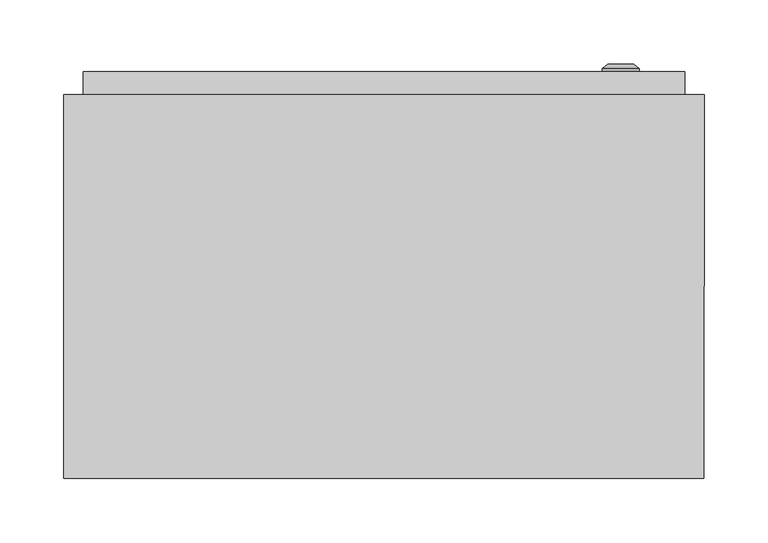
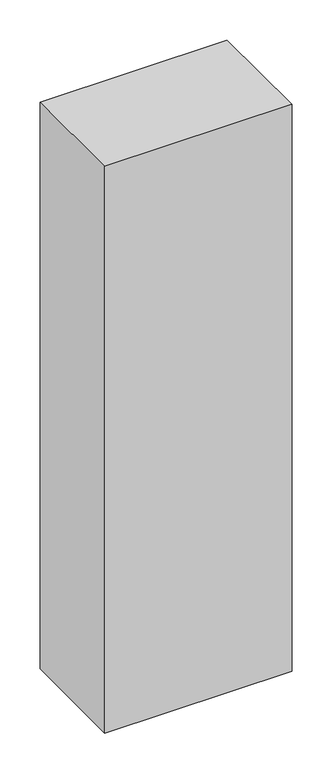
"""IFC4 building model written with IfcOpenShell, lengths in millimetres: proxy geometry, ШРС_IP54 : ШРС-2_1600х500х300_IP54."""

from ifc_helpers import new_model, si_unit, frame, origin, place, context, project, spatial, polyline, circle_curve, outline, extrude, faceted_brep, source, transform, mapped, element, save
from ifc_brep_helpers import plane_surface, cylinder_surface, revolved_surface, advanced_brep


def electrical_equipment_3c1566b2(model_context):
    return source(origin(), model_context, "Body", "SolidModel", [
        advanced_brep(
        [(170.669873, 318.0, 320.0), (199.330127, 318.0, 320.0), (185.0, 318.0, 320.0), (170.669873, 320.366592, 320.0), (199.330127, 320.366592, 320.0), (175.0, 324.0, 320.0), (195.0, 324.0, 320.0), (183.1080471, 324.0, 320.0), (186.8919529, 324.0, 320.0), (183.1080471, 322.9822294, 320.0), (186.8919529, 322.9822294, 320.0), (185.0, 322.9822294, 320.0)],
        [
            (0, 1, circle_curve(frame((185.0, 318.0, 320.0), z_axis=(0.0, -1.0, 0.0), x_axis=(1.0, 0.0, 0.0)), 14.330127)),
            (1, 2),
            (2, 0),
            (1, 0, circle_curve(frame((185.0, 318.0, 320.0), z_axis=(0.0, -1.0, 0.0), x_axis=(1.0, 0.0, 0.0)), 14.330127)),
            (3, 4, circle_curve(frame((185.0, 320.366592, 320.0), z_axis=(0.0, -1.0, 0.0), x_axis=(1.0, 0.0, 0.0)), 14.330127)),
            (4, 1),
            (0, 3),
            (4, 3, circle_curve(frame((185.0, 320.366592, 320.0), z_axis=(0.0, -1.0, 0.0), x_axis=(1.0, 0.0, 0.0)), 14.330127)),
            (5, 6, circle_curve(frame((185.0, 324.0, 320.0), z_axis=(0.0, -1.0, 0.0), x_axis=(1.0, 0.0, 0.0)), 10.0)),
            (6, 4),
            (3, 5),
            (6, 5, circle_curve(frame((185.0, 324.0, 320.0), z_axis=(0.0, -1.0, 0.0), x_axis=(1.0, 0.0, 0.0)), 10.0)),
            (7, 8, circle_curve(frame((185.0, 324.0, 320.0), z_axis=(0.0, -1.0, 0.0), x_axis=(1.0, 0.0, 0.0)), 1.8919529)),
            (8, 6),
            (5, 7),
            (8, 7, circle_curve(frame((185.0, 324.0, 320.0), z_axis=(0.0, -1.0, 0.0), x_axis=(1.0, 0.0, 0.0)), 1.8919529)),
            (9, 10, circle_curve(frame((185.0, 322.9822294, 320.0), z_axis=(0.0, -1.0, 0.0), x_axis=(1.0, 0.0, 0.0)), 1.8919529)),
            (10, 8),
            (7, 9),
            (10, 9, circle_curve(frame((185.0, 322.9822294, 320.0), z_axis=(0.0, -1.0, 0.0), x_axis=(1.0, 0.0, 0.0)), 1.8919529)),
            (11, 10),
            (9, 11),
        ],
        [
            plane_surface(frame((185.0, 318.0, 320.0), z_axis=(0.0, -1.0, 0.0), x_axis=(1.0, 0.0, 0.0))),
            cylinder_surface(frame((185.0, 331.1348851, 320.0), z_axis=(0.0, 1.0, 0.0), x_axis=(1.0, 0.0, 0.0)), 14.330127),
            revolved_surface(polyline([(199.330127, 320.366592, 320.0), (195.0, 324.0, 320.0)]), (185.0, 331.1348851, 320.0), (0.0, 1.0, 0.0)),
            plane_surface(frame((185.0, 324.0, 320.0), z_axis=(0.0, 1.0, 0.0), x_axis=(1.0, 0.0, 0.0))),
            revolved_surface(polyline([(186.8919529, 324.0, 320.0), (186.8919529, 322.9822294, 320.0)]), (185.0, 331.1348851, 320.0), (0.0, 1.0, 0.0)),
            plane_surface(frame((185.0, 322.9822294, 320.0), z_axis=(0.0, 1.0, 0.0), x_axis=(1.0, 0.0, 0.0))),
        ],
        [
            (0, [[1, 2, 3]]),
            (0, [[4, -3, -2]]),
            (1, [[5, 6, -1, 7]]),
            (1, [[8, -7, -4, -6]]),
            (2, [[9, 10, -5, 11]]),
            (2, [[12, -11, -8, -10]]),
            (3, [[13, 14, -9, 15]]),
            (3, [[16, -15, -12, -14]]),
            (4, [[17, 18, -13, 19]]),
            (4, [[20, -19, -16, -18]]),
            (5, [[21, -17, 22]]),
            (5, [[-22, -20, -21]]),
        ],
    ),
        advanced_brep(
        [(170.669873, 318.0, 1285.0), (199.330127, 318.0, 1285.0), (185.0, 318.0, 1285.0), (170.669873, 320.366592, 1285.0), (199.330127, 320.366592, 1285.0), (175.0, 324.0, 1285.0), (195.0, 324.0, 1285.0), (183.1080471, 324.0, 1285.0), (186.8919529, 324.0, 1285.0), (183.1080471, 322.9822294, 1285.0), (186.8919529, 322.9822294, 1285.0), (185.0, 322.9822294, 1285.0)],
        [
            (0, 1, circle_curve(frame((185.0, 318.0, 1285.0), z_axis=(0.0, -1.0, 0.0), x_axis=(1.0, 0.0, 0.0)), 14.330127)),
            (1, 2),
            (2, 0),
            (1, 0, circle_curve(frame((185.0, 318.0, 1285.0), z_axis=(0.0, -1.0, 0.0), x_axis=(1.0, 0.0, 0.0)), 14.330127)),
            (3, 4, circle_curve(frame((185.0, 320.366592, 1285.0), z_axis=(0.0, -1.0, 0.0), x_axis=(1.0, 0.0, 0.0)), 14.330127)),
            (4, 1),
            (0, 3),
            (4, 3, circle_curve(frame((185.0, 320.366592, 1285.0), z_axis=(0.0, -1.0, 0.0), x_axis=(1.0, 0.0, 0.0)), 14.330127)),
            (5, 6, circle_curve(frame((185.0, 324.0, 1285.0), z_axis=(0.0, -1.0, 0.0), x_axis=(1.0, 0.0, 0.0)), 10.0)),
            (6, 4),
            (3, 5),
            (6, 5, circle_curve(frame((185.0, 324.0, 1285.0), z_axis=(0.0, -1.0, 0.0), x_axis=(1.0, 0.0, 0.0)), 10.0)),
            (7, 8, circle_curve(frame((185.0, 324.0, 1285.0), z_axis=(0.0, -1.0, 0.0), x_axis=(1.0, 0.0, 0.0)), 1.8919529)),
            (8, 6),
            (5, 7),
            (8, 7, circle_curve(frame((185.0, 324.0, 1285.0), z_axis=(0.0, -1.0, 0.0), x_axis=(1.0, 0.0, 0.0)), 1.8919529)),
            (9, 10, circle_curve(frame((185.0, 322.9822294, 1285.0), z_axis=(0.0, -1.0, 0.0), x_axis=(1.0, 0.0, 0.0)), 1.8919529)),
            (10, 8),
            (7, 9),
            (10, 9, circle_curve(frame((185.0, 322.9822294, 1285.0), z_axis=(0.0, -1.0, 0.0), x_axis=(1.0, 0.0, 0.0)), 1.8919529)),
            (11, 10),
            (9, 11),
        ],
        [
            plane_surface(frame((185.0, 318.0, 1285.0), z_axis=(0.0, -1.0, 0.0), x_axis=(1.0, 0.0, 0.0))),
            cylinder_surface(frame((185.0, 331.1348851, 1285.0), z_axis=(0.0, 1.0, 0.0), x_axis=(1.0, 0.0, 0.0)), 14.330127),
            revolved_surface(polyline([(199.330127, 320.366592, 1285.0), (195.0, 324.0, 1285.0)]), (185.0, 331.1348851, 1285.0), (0.0, 1.0, 0.0)),
            plane_surface(frame((185.0, 324.0, 1285.0), z_axis=(0.0, 1.0, 0.0), x_axis=(1.0, 0.0, 0.0))),
            revolved_surface(polyline([(186.8919529, 324.0, 1285.0), (186.8919529, 322.9822294, 1285.0)]), (185.0, 331.1348851, 1285.0), (0.0, 1.0, 0.0)),
            plane_surface(frame((185.0, 322.9822294, 1285.0), z_axis=(0.0, 1.0, 0.0), x_axis=(1.0, 0.0, 0.0))),
        ],
        [
            (0, [[1, 2, 3]]),
            (0, [[4, -3, -2]]),
            (1, [[5, 6, -1, 7]]),
            (1, [[8, -7, -4, -6]]),
            (2, [[9, 10, -5, 11]]),
            (2, [[12, -11, -8, -10]]),
            (3, [[13, 14, -9, 15]]),
            (3, [[16, -15, -12, -14]]),
            (4, [[17, 18, -13, 19]]),
            (4, [[20, -19, -16, -18]]),
            (5, [[21, -17, 22]]),
            (5, [[-22, -20, -21]]),
        ],
    ),
        faceted_brep([(-250.0, 300.0, 1600.0), (250.0067809, 300.0, 1600.0), (250.0067809, 300.0, 0.0), (-250.0, 300.0, 0.0), (215.8707865, 300.0, 93.3701084), (215.8707865, 300.0, 1492.9861595), (-213.3426966, 300.0, 1492.9861595), (-213.3426966, 300.0, 93.3701084), (-250.0, 0.0, 1600.0), (-250.0, 0.0, 0.0), (250.0, 0.0, 1600.0), (250.0, 0.0, 0.0), (-213.3426966, 10.0, 93.3701084), (215.8707865, 10.0, 93.3701084), (-213.3426966, 10.0, 1492.9861595), (215.8707865, 10.0, 1492.9861595)], [[[0, 1, 2, 3], [4, 5, 6, 7]], [[8, 0, 3, 9]], [[1, 10, 11, 2]], [[4, 7, 12, 13]], [[7, 6, 14, 12]], [[6, 5, 15, 14]], [[5, 4, 13, 15]], [[1, 0, 8, 10]], [[11, 10, 8, 9]], [[2, 11, 9, 3]], [[13, 12, 14, 15]]]),
        extrude(outline(polyline([(-205.8707865, 125.9831461), (-165.8707865, 125.9831461), (-165.8707865, 93.1179775), (-168.8707865, 93.1179775), (-168.8707865, 122.9831461), (-202.8707865, 122.9831461), (-202.8707865, 93.1179775), (-205.8707865, 93.1179775), (-205.8707865, 125.9831461)])), frame((0.0, 0.0, 189.6067416), z_axis=(0.0, 0.0, 1.0), x_axis=(1.0, 0.0, 0.0)), (0.0, 0.0, 1.0), 1345.3932584),
        extrude(outline(polyline([(165.8707865, 125.9831461), (205.8707865, 125.9831461), (205.8707865, 93.1179775), (202.8707865, 93.1179775), (202.8707865, 122.9831461), (168.8707865, 122.9831461), (168.8707865, 93.1179775), (165.8707865, 93.1179775), (165.8707865, 125.9831461)])), frame((0.0, 0.0, 189.6067416), z_axis=(0.0, 0.0, 1.0), x_axis=(1.0, 0.0, 0.0)), (0.0, 0.0, 1.0), 1345.3932584),
        extrude(outline(polyline([(-205.8707865, 10.0), (-215.8707865, 10.0), (-215.8707865, 280.0), (-205.8707865, 280.0), (-205.8707865, 10.0)])), frame((0.0, 0.0, 1445.5966059), z_axis=(0.0, 0.0, 1.0), x_axis=(1.0, 0.0, 0.0)), (0.0, 0.0, 1.0), 53.0898876),
        extrude(outline(polyline([(215.8707865, 10.0), (205.8707865, 10.0), (205.8707865, 280.0), (215.8707865, 280.0), (215.8707865, 10.0)])), frame((0.0, 0.0, 1445.5966059), z_axis=(0.0, 0.0, 1.0), x_axis=(1.0, 0.0, 0.0)), (0.0, 0.0, 1.0), 53.0898876),
        extrude(outline(polyline([(-205.8707865, 10.0), (-215.8707865, 10.0), (-215.8707865, 280.0), (-205.8707865, 280.0), (-205.8707865, 10.0)])), frame((0.0, 0.0, 260.5966059), z_axis=(0.0, 0.0, 1.0), x_axis=(1.0, 0.0, 0.0)), (0.0, 0.0, 1.0), 53.0898876),
        extrude(outline(polyline([(215.8707865, 10.0), (205.8707865, 10.0), (205.8707865, 280.0), (215.8707865, 280.0), (215.8707865, 10.0)])), frame((0.0, 0.0, 260.5966059), z_axis=(0.0, 0.0, 1.0), x_axis=(1.0, 0.0, 0.0)), (0.0, 0.0, 1.0), 53.0898876),
        extrude(outline(polyline([(-205.8707865, 10.0), (-215.8707865, 10.0), (-215.8707865, 280.0), (-205.8707865, 280.0), (-205.8707865, 10.0)])), frame((0.0, 0.0, 735.5966059), z_axis=(0.0, 0.0, 1.0), x_axis=(1.0, 0.0, 0.0)), (0.0, 0.0, 1.0), 53.0898876),
        extrude(outline(polyline([(215.8707865, 10.0), (205.8707865, 10.0), (205.8707865, 280.0), (215.8707865, 280.0), (215.8707865, 10.0)])), frame((0.0, 0.0, 735.5966059), z_axis=(0.0, 0.0, 1.0), x_axis=(1.0, 0.0, 0.0)), (0.0, 0.0, 1.0), 53.0898876),
        extrude(outline(polyline([(235.0, 300.0), (-235.0, 300.0), (-235.0, 318.0), (235.0, 318.0), (235.0, 300.0)])), frame((0.0, 0.0, 65.0187804), z_axis=(0.0, 0.0, 1.0), x_axis=(1.0, 0.0, 0.0)), (0.0, 0.0, 1.0), 1469.9812196),
    ])


if __name__ == "__main__":
    model = new_model("IFC4")
    model_context = context("Model", 3, world=origin())
    ifc_project = project(units=[si_unit("LENGTHUNIT", "METRE", prefix="MILLI")], contexts=[model_context])
    site = spatial("IfcSite", under=ifc_project)
    building = spatial("IfcBuilding", under=site)
    placement = place(None, origin())
    electrical_equipment_shape = electrical_equipment_3c1566b2(model_context)
    element("IfcBuildingElementProxy", 1, Name="ШРС_IP54 : ШРС-2_1600х500х300_IP54", ObjectType="ШРС_IP54 : ШРС-2_1600х500х300_IP54", at=placement, inside=building, context=model_context, shape_type="MappedRepresentation", body=[
        mapped(electrical_equipment_shape, transform((0.0, 0.0, 0.0), x_axis=(1.0, 0.0, 0.0), y_axis=(0.0, 1.0, 0.0), z_axis=(0.0, 0.0, 1.0))),
    ])
    save(model, "model.ifc")
